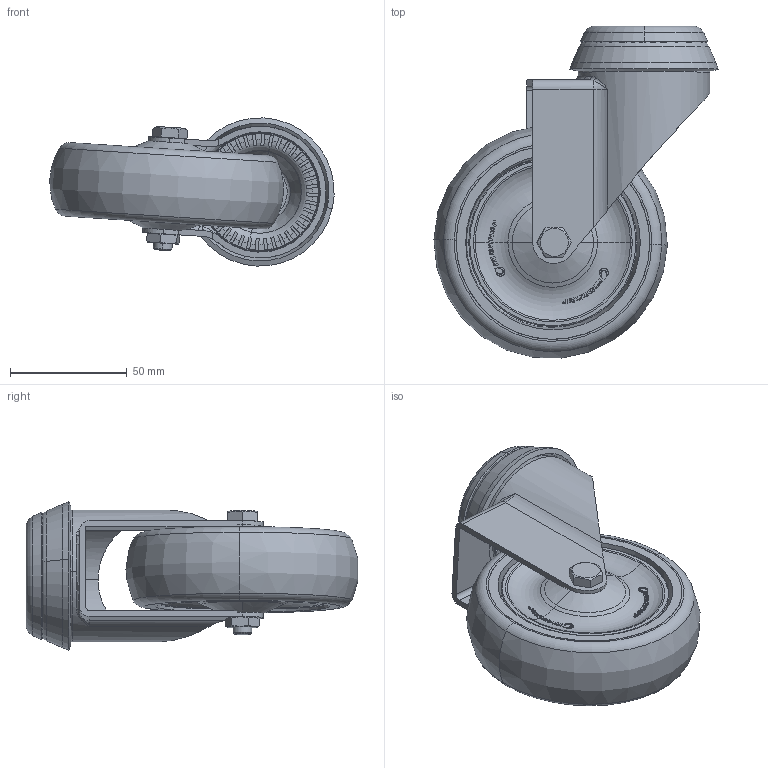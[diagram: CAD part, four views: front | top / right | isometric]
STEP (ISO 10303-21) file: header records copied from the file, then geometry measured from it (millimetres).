
FILE_DESCRIPTION (( 'STEP AP203' ), '1' );
FILE_NAME ('301539_STEP.STEP', '2013-07-29T10:13:57', ( 'admin' ), ( 'Hewlett-Packard Company' ), 'SwSTEP 2.0', 'SolidWorks 2011', '' );
FILE_SCHEMA (( 'CONFIG_CONTROL_DESIGN' ));
Length unit declared in the file: millimetre
Products named in the file (1): 301539_STEP
Bounding box: 121.46 x 141.85 x 63.32 mm (x, y, z)
Volume: 199668.5 mm3; surface area: 115894.5 mm2
Topology: 12 solids, 12 shells, 1372 faces, 3663 edges, 2390 vertices
Faces by surface type: plane 777, cylinder 402, cone 94, torus 87, bspline 12
Entity records: 46384 total; most frequent: CARTESIAN_POINT 13321, ORIENTED_EDGE 7320, DIRECTION 6243, EDGE_CURVE 3660, VERTEX_POINT 2390, AXIS2_PLACEMENT_3D 2236, LINE 1771, VECTOR 1771
